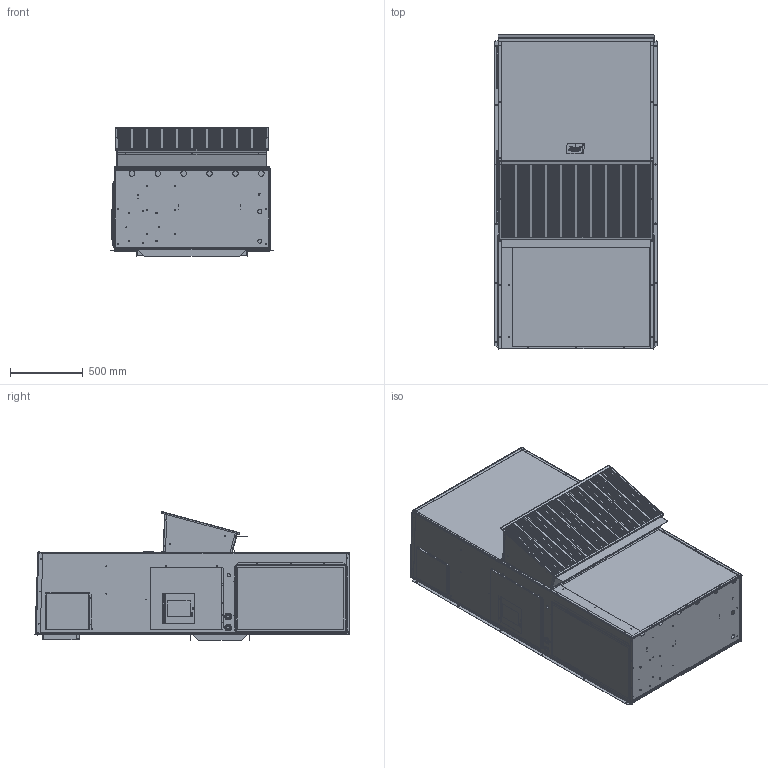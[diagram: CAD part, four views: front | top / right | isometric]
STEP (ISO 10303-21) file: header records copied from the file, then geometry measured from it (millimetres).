
FILE_DESCRIPTION (( 'STEP AP214' ), '1' );
FILE_NAME ('STEP_1100_11.STEP', '2016-06-24T16:58:45', ( 'BMC' ), ( 'Bard Manufacturing Co., Inc.' ), 'SwSTEP 2.0', 'SolidWorks 2016', '' );
FILE_SCHEMA (( 'AUTOMOTIVE_DESIGN' ));
Length unit declared in the file: inch
Products named in the file (1): STEP_1100_11
Bounding box: 1114 x 2155.74 x 882.86 mm (x, y, z)
Volume: 9768645.4 mm3; surface area: 19566970.7 mm2
Topology: 39 solids, 39 shells, 4941 faces, 13845 edges, 9055 vertices
Faces by surface type: plane 3072, cylinder 1064, bspline 792, torus 5, sphere 4, cone 4
Entity records: 192706 total; most frequent: CARTESIAN_POINT 57860, ORIENTED_EDGE 27684, DIRECTION 24390, EDGE_CURVE 13842, VECTOR 9550, LINE 9550, VERTEX_POINT 9055, AXIS2_PLACEMENT_3D 7420
